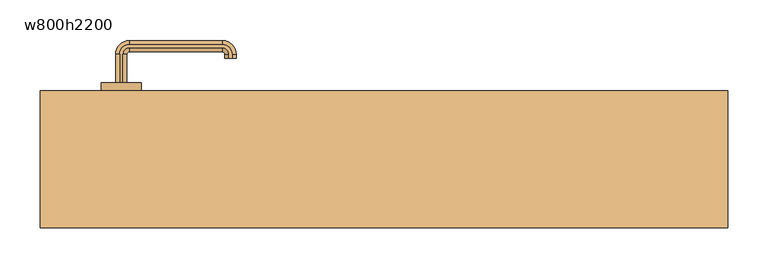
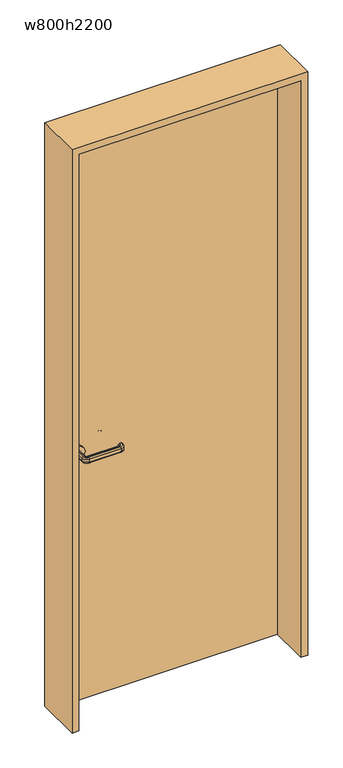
"""IFC4 building model written with IfcOpenShell, lengths in millimetres: door geometry, 片開き : w800h2200."""

from ifc_helpers import new_model, si_unit, point, frame, frame_2d, origin, origin_with_axes, place, context, project, spatial, polyline, circle_curve, ellipse_curve, trimmed, segment, composite_curve, outline, extrude, source, transform, mapped, element, save
from ifc_brep_helpers import plane_surface, cylinder_surface, revolved_surface, advanced_brep


def w800h2200_b60957cc(model_context):
    return source(origin(), model_context, "Body", "SolidModel", [
        advanced_brep(
        [(-327.0, 95.0, 960.0), (-332.0, 95.0, 955.0), (-332.0, 95.0, 945.0477623), (-327.0, 95.0, 940.0477623), (-323.0, 95.0, 940.0477623), (-318.0, 95.0, 945.0477623), (-318.0, 95.0, 955.0), (-323.0, 95.0, 960.0), (-327.0, 130.0, 960.0), (-332.0, 130.0, 955.0), (-332.0, 130.0, 945.0477623), (-327.0, 130.0, 940.0477623), (-315.0, 142.0, 940.0477623), (-200.0, 142.0, 940.0477623), (-188.0, 130.0, 940.0477623), (-188.0, 125.0, 940.0477623), (-192.0, 125.0, 940.0477623), (-192.0, 130.0, 940.0477623), (-200.0, 138.0, 940.0477623), (-315.0, 138.0, 940.0477623), (-323.0, 130.0, 940.0477623), (-318.0, 130.0, 945.0477623), (-318.0, 130.0, 955.0), (-323.0, 130.0, 960.0), (-315.0, 138.0, 960.0), (-200.0, 138.0, 960.0), (-192.0, 130.0, 960.0), (-192.0, 125.0, 960.0), (-188.0, 125.0, 960.0), (-188.0, 130.0, 960.0), (-200.0, 142.0, 960.0), (-315.0, 142.0, 960.0), (-315.0, 147.0, 955.0), (-315.0, 147.0, 945.0477623), (-315.0, 133.0, 945.0477623), (-315.0, 133.0, 955.0), (-200.0, 147.0, 955.0), (-200.0, 147.0, 945.0477623), (-200.0, 133.0, 945.0477623), (-200.0, 133.0, 955.0), (-183.0, 130.0, 955.0), (-183.0, 130.0, 945.0477623), (-197.0, 130.0, 945.0477623), (-197.0, 130.0, 955.0), (-197.0, 125.0, 955.0), (-197.0, 125.0, 945.0477623), (-183.0, 125.0, 945.0477623), (-183.0, 125.0, 955.0)],
        [
            (0, 1, circle_curve(frame((-327.0, 95.0, 955.0), z_axis=(0.0, -1.0, 0.0), x_axis=(-1.0, 0.0, 0.0)), 5.0)),
            (1, 2),
            (2, 3, circle_curve(frame((-327.0, 95.0, 945.0477623), z_axis=(0.0, -1.0, 0.0), x_axis=(-1.0, 0.0, 0.0)), 5.0)),
            (3, 4),
            (4, 5, circle_curve(frame((-323.0, 95.0, 945.0477623), z_axis=(0.0, -1.0, 0.0), x_axis=(-1.0, 0.0, 0.0)), 5.0)),
            (5, 6),
            (6, 7, circle_curve(frame((-323.0, 95.0, 955.0), z_axis=(0.0, -1.0, 0.0), x_axis=(-1.0, 0.0, 0.0)), 5.0)),
            (7, 0),
            (0, 8),
            (8, 9, circle_curve(frame((-327.0, 130.0, 955.0), z_axis=(0.0, -1.0, 0.0), x_axis=(-1.0, 0.0, 0.0)), 5.0)),
            (9, 1),
            (9, 10),
            (10, 2),
            (10, 11, circle_curve(frame((-327.0, 130.0, 945.0477623), z_axis=(0.0, -1.0, 0.0), x_axis=(-1.0, 0.0, 0.0)), 5.0)),
            (11, 3),
            (11, 12, circle_curve(frame((-315.0, 130.0, 940.0477623), z_axis=(0.0, 0.0, -1.0), x_axis=(-1.0, 0.0, 0.0)), 12.0)),
            (12, 13),
            (13, 14, circle_curve(frame((-200.0, 130.0, 940.0477623), z_axis=(0.0, 0.0, -1.0), x_axis=(0.0, 1.0, 0.0)), 12.0)),
            (14, 15),
            (15, 16),
            (16, 17),
            (17, 18, circle_curve(frame((-200.0, 130.0, 940.0477623), z_axis=(0.0, 0.0, 1.0), x_axis=(0.0, 1.0, 0.0)), 8.0)),
            (18, 19),
            (19, 20, circle_curve(frame((-315.0, 130.0, 940.0477623), z_axis=(0.0, 0.0, 1.0), x_axis=(-1.0, 0.0, 0.0)), 8.0)),
            (20, 4),
            (20, 21, circle_curve(frame((-323.0, 130.0, 945.0477623), z_axis=(0.0, -1.0, 0.0), x_axis=(-1.0, 0.0, 0.0)), 5.0)),
            (21, 5),
            (21, 22),
            (22, 6),
            (22, 23, circle_curve(frame((-323.0, 130.0, 955.0), z_axis=(0.0, -1.0, 0.0), x_axis=(-1.0, 0.0, 0.0)), 5.0)),
            (23, 7),
            (23, 24, circle_curve(frame((-315.0, 130.0, 960.0), z_axis=(0.0, 0.0, -1.0), x_axis=(-1.0, 0.0, 0.0)), 8.0)),
            (24, 25),
            (25, 26, circle_curve(frame((-200.0, 130.0, 960.0), z_axis=(0.0, 0.0, -1.0), x_axis=(0.0, 1.0, 0.0)), 8.0)),
            (26, 27),
            (27, 28),
            (28, 29),
            (29, 30, circle_curve(frame((-200.0, 130.0, 960.0), z_axis=(0.0, 0.0, 1.0), x_axis=(0.0, 1.0, 0.0)), 12.0)),
            (30, 31),
            (31, 8, circle_curve(frame((-315.0, 130.0, 960.0), z_axis=(0.0, 0.0, 1.0), x_axis=(-1.0, 0.0, 0.0)), 12.0)),
            (32, 9, circle_curve(frame((-315.0, 130.0, 955.0), z_axis=(0.0, 0.0, 1.0), x_axis=(-1.0, 0.0, 0.0)), 17.0)),
            (31, 32, circle_curve(frame((-315.0, 142.0, 955.0), z_axis=(-1.0, 0.0, 0.0), x_axis=(0.0, 1.0, 0.0)), 5.0)),
            (33, 10, circle_curve(frame((-315.0, 130.0, 945.0477623), z_axis=(0.0, 0.0, 1.0), x_axis=(-1.0, 0.0, 0.0)), 17.0)),
            (32, 33),
            (33, 12, circle_curve(frame((-315.0, 142.0, 945.0477623), z_axis=(-1.0, 0.0, 0.0), x_axis=(0.0, 1.0, 0.0)), 5.0)),
            (34, 21, circle_curve(frame((-315.0, 130.0, 945.0477623), z_axis=(0.0, 0.0, 1.0), x_axis=(-1.0, 0.0, 0.0)), 3.0)),
            (19, 34, circle_curve(frame((-315.0, 138.0, 945.0477623), z_axis=(-1.0, 0.0, 0.0), x_axis=(0.0, 1.0, 0.0)), 5.0)),
            (35, 22, circle_curve(frame((-315.0, 130.0, 955.0), z_axis=(0.0, 0.0, 1.0), x_axis=(-1.0, 0.0, 0.0)), 3.0)),
            (34, 35),
            (35, 24, circle_curve(frame((-315.0, 138.0, 955.0), z_axis=(-1.0, 0.0, 0.0), x_axis=(0.0, 1.0, 0.0)), 5.0)),
            (30, 36, circle_curve(frame((-200.0, 142.0, 955.0), z_axis=(-1.0, 0.0, 0.0), x_axis=(0.0, 1.0, 0.0)), 5.0)),
            (36, 32),
            (36, 37),
            (37, 33),
            (37, 13, circle_curve(frame((-200.0, 142.0, 945.0477623), z_axis=(-1.0, 0.0, 0.0), x_axis=(0.0, 1.0, 0.0)), 5.0)),
            (18, 38, circle_curve(frame((-200.0, 138.0, 945.0477623), z_axis=(-1.0, 0.0, 0.0), x_axis=(0.0, 1.0, 0.0)), 5.0)),
            (38, 34),
            (38, 39),
            (39, 35),
            (39, 25, circle_curve(frame((-200.0, 138.0, 955.0), z_axis=(-1.0, 0.0, 0.0), x_axis=(0.0, 1.0, 0.0)), 5.0)),
            (40, 36, circle_curve(frame((-200.0, 130.0, 955.0), z_axis=(0.0, 0.0, 1.0), x_axis=(0.0, 1.0, 0.0)), 17.0)),
            (29, 40, circle_curve(frame((-188.0, 130.0, 955.0), z_axis=(0.0, 1.0, 0.0), x_axis=(1.0, 0.0, 0.0)), 5.0)),
            (41, 37, circle_curve(frame((-200.0, 130.0, 945.0477623), z_axis=(0.0, 0.0, 1.0), x_axis=(0.0, 1.0, 0.0)), 17.0)),
            (40, 41),
            (41, 14, circle_curve(frame((-188.0, 130.0, 945.0477623), z_axis=(0.0, 1.0, 0.0), x_axis=(1.0, 0.0, 0.0)), 5.0)),
            (42, 38, circle_curve(frame((-200.0, 130.0, 945.0477623), z_axis=(0.0, 0.0, 1.0), x_axis=(0.0, 1.0, 0.0)), 3.0)),
            (17, 42, circle_curve(frame((-192.0, 130.0, 945.0477623), z_axis=(0.0, 1.0, 0.0), x_axis=(1.0, 0.0, 0.0)), 5.0)),
            (43, 39, circle_curve(frame((-200.0, 130.0, 955.0), z_axis=(0.0, 0.0, 1.0), x_axis=(0.0, 1.0, 0.0)), 3.0)),
            (42, 43),
            (43, 26, circle_curve(frame((-192.0, 130.0, 955.0), z_axis=(0.0, 1.0, 0.0), x_axis=(1.0, 0.0, 0.0)), 5.0)),
            (27, 44, circle_curve(frame((-192.0, 125.0, 955.0), z_axis=(0.0, -1.0, 0.0), x_axis=(1.0, 0.0, 0.0)), 5.0)),
            (44, 45),
            (45, 16, circle_curve(frame((-192.0, 125.0, 945.0477623), z_axis=(0.0, -1.0, 0.0), x_axis=(1.0, 0.0, 0.0)), 5.0)),
            (15, 46, circle_curve(frame((-188.0, 125.0, 945.0477623), z_axis=(0.0, -1.0, 0.0), x_axis=(1.0, 0.0, 0.0)), 5.0)),
            (46, 47),
            (47, 28, circle_curve(frame((-188.0, 125.0, 955.0), z_axis=(0.0, -1.0, 0.0), x_axis=(1.0, 0.0, 0.0)), 5.0)),
            (47, 40),
            (46, 41),
            (45, 42),
            (44, 43),
        ],
        [
            plane_surface(frame((-335.198039, 95.0, 950.0), z_axis=(0.0, -1.0, 0.0), x_axis=(0.0, 0.0, 1.0))),
            cylinder_surface(frame((-327.0, 95.0, 955.0), z_axis=(0.0, -1.0, 0.0), x_axis=(-1.0, 0.0, 0.0)), 5.0),
            plane_surface(frame((-332.0, 95.0, 955.0), z_axis=(-1.0, 0.0, 0.0), x_axis=(0.0, 1.0, 0.0))),
            cylinder_surface(frame((-327.0, 95.0, 945.0477623), z_axis=(0.0, -1.0, 0.0), x_axis=(-1.0, 0.0, 0.0)), 5.0),
            plane_surface(frame((-327.0, 95.0, 940.0477623), z_axis=(0.0, 0.0, -1.0), x_axis=(0.0, 1.0, 0.0))),
            cylinder_surface(frame((-323.0, 95.0, 945.0477623), z_axis=(0.0, -1.0, 0.0), x_axis=(-1.0, 0.0, 0.0)), 5.0),
            plane_surface(frame((-318.0, 95.0, 945.0477623), z_axis=(1.0, 0.0, 0.0), x_axis=(0.0, 1.0, 0.0))),
            cylinder_surface(frame((-323.0, 95.0, 955.0), z_axis=(0.0, -1.0, 0.0), x_axis=(-1.0, 0.0, 0.0)), 5.0),
            plane_surface(frame((-323.0, 95.0, 960.0), z_axis=(0.0, 0.0, 1.0), x_axis=(0.0, 1.0, 0.0))),
            revolved_surface(trimmed(ellipse_curve(frame((-327.0, 130.0, 955.0), z_axis=(0.0, -1.0, 0.0), x_axis=(-1.0, 0.0, 0.0)), 5.0, 5.0), [point((-327.0, 130.0, 960.0))], [point((-332.0, 130.0, 955.0))], True, "CARTESIAN"), (-315.0, 130.0, 950.0), (0.0, 0.0, -1.0)),
            cylinder_surface(frame((-315.0, 130.0, 950.0), z_axis=(0.0, 0.0, -1.0), x_axis=(-1.0, 0.0, 0.0)), 17.0),
            revolved_surface(trimmed(ellipse_curve(frame((-327.0, 130.0, 945.0477623), z_axis=(0.0, -1.0, 0.0), x_axis=(-1.0, 0.0, 0.0)), 5.0, 5.0), [point((-332.0, 130.0, 945.0477623))], [point((-327.0, 130.0, 940.0477623))], True, "CARTESIAN"), (-315.0, 130.0, 950.0), (0.0, 0.0, -1.0)),
            revolved_surface(trimmed(ellipse_curve(frame((-323.0, 130.0, 945.0477623), z_axis=(0.0, -1.0, 0.0), x_axis=(-1.0, 0.0, 0.0)), 5.0, 5.0), [point((-323.0, 130.0, 940.0477623))], [point((-318.0, 130.0, 945.0477623))], True, "CARTESIAN"), (-315.0, 130.0, 950.0), (0.0, 0.0, -1.0)),
            revolved_surface(polyline([(-318.0, 130.0, 945.0477623), (-318.0, 130.0, 955.0)]), (-315.0, 130.0, 950.0), (0.0, 0.0, -1.0)),
            revolved_surface(trimmed(ellipse_curve(frame((-323.0, 130.0, 955.0), z_axis=(0.0, -1.0, 0.0), x_axis=(-1.0, 0.0, 0.0)), 5.0, 5.0), [point((-318.0, 130.0, 955.0))], [point((-323.0, 130.0, 960.0))], True, "CARTESIAN"), (-315.0, 130.0, 950.0), (0.0, 0.0, -1.0)),
            cylinder_surface(frame((-315.0, 142.0, 955.0), z_axis=(-1.0, 0.0, 0.0), x_axis=(0.0, 1.0, 0.0)), 5.0),
            plane_surface(frame((-315.0, 147.0, 955.0), z_axis=(0.0, 1.0, 0.0), x_axis=(1.0, 0.0, 0.0))),
            cylinder_surface(frame((-315.0, 142.0, 945.0477623), z_axis=(-1.0, 0.0, 0.0), x_axis=(0.0, 1.0, 0.0)), 5.0),
            cylinder_surface(frame((-315.0, 138.0, 945.0477623), z_axis=(-1.0, 0.0, 0.0), x_axis=(0.0, 1.0, 0.0)), 5.0),
            plane_surface(frame((-315.0, 133.0, 945.0477623), z_axis=(0.0, -1.0, 0.0), x_axis=(1.0, 0.0, 0.0))),
            cylinder_surface(frame((-315.0, 138.0, 955.0), z_axis=(-1.0, 0.0, 0.0), x_axis=(0.0, 1.0, 0.0)), 5.0),
            revolved_surface(trimmed(ellipse_curve(frame((-200.0, 142.0, 955.0), z_axis=(-1.0, 0.0, 0.0), x_axis=(0.0, 1.0, 0.0)), 5.0, 5.0), [point((-200.0, 142.0, 960.0))], [point((-200.0, 147.0, 955.0))], True, "CARTESIAN"), (-200.0, 130.0, 950.0), (0.0, 0.0, -1.0)),
            cylinder_surface(frame((-200.0, 130.0, 950.0), z_axis=(0.0, 0.0, -1.0), x_axis=(0.0, 1.0, 0.0)), 17.0),
            revolved_surface(trimmed(ellipse_curve(frame((-200.0, 142.0, 945.0477623), z_axis=(-1.0, 0.0, 0.0), x_axis=(0.0, 1.0, 0.0)), 5.0, 5.0), [point((-200.0, 147.0, 945.0477623))], [point((-200.0, 142.0, 940.0477623))], True, "CARTESIAN"), (-200.0, 130.0, 950.0), (0.0, 0.0, -1.0)),
            revolved_surface(trimmed(ellipse_curve(frame((-200.0, 138.0, 945.0477623), z_axis=(-1.0, 0.0, 0.0), x_axis=(0.0, 1.0, 0.0)), 5.0, 5.0), [point((-200.0, 138.0, 940.0477623))], [point((-200.0, 133.0, 945.0477623))], True, "CARTESIAN"), (-200.0, 130.0, 950.0), (0.0, 0.0, -1.0)),
            revolved_surface(polyline([(-200.0, 133.0, 945.0477623), (-200.0, 133.0, 955.0)]), (-200.0, 130.0, 950.0), (0.0, 0.0, -1.0)),
            revolved_surface(trimmed(ellipse_curve(frame((-200.0, 138.0, 955.0), z_axis=(-1.0, 0.0, 0.0), x_axis=(0.0, 1.0, 0.0)), 5.0, 5.0), [point((-200.0, 133.0, 955.0))], [point((-200.0, 138.0, 960.0))], True, "CARTESIAN"), (-200.0, 130.0, 950.0), (0.0, 0.0, -1.0)),
            plane_surface(frame((-200.198039, 125.0, 950.0), z_axis=(0.0, -1.0, 0.0), x_axis=(0.0, 0.0, -1.0))),
            cylinder_surface(frame((-188.0, 130.0, 955.0), z_axis=(0.0, 1.0, 0.0), x_axis=(1.0, 0.0, 0.0)), 5.0),
            plane_surface(frame((-183.0, 130.0, 955.0), z_axis=(1.0, 0.0, 0.0), x_axis=(0.0, -1.0, 0.0))),
            cylinder_surface(frame((-188.0, 130.0, 945.0477623), z_axis=(0.0, 1.0, 0.0), x_axis=(1.0, 0.0, 0.0)), 5.0),
            cylinder_surface(frame((-192.0, 130.0, 945.0477623), z_axis=(0.0, 1.0, 0.0), x_axis=(1.0, 0.0, 0.0)), 5.0),
            plane_surface(frame((-197.0, 130.0, 945.0477623), z_axis=(-1.0, 0.0, 0.0), x_axis=(0.0, -1.0, 0.0))),
            cylinder_surface(frame((-192.0, 130.0, 955.0), z_axis=(0.0, 1.0, 0.0), x_axis=(1.0, 0.0, 0.0)), 5.0),
        ],
        [
            (0, [[1, 2, 3, 4, 5, 6, 7, 8]]),
            (1, [[-1, 9, 10, 11]]),
            (2, [[-2, -11, 12, 13]]),
            (3, [[-3, -13, 14, 15]]),
            (4, [[-4, -15, 16, 17, 18, 19, 20, 21, 22, 23, 24, 25]]),
            (5, [[-5, -25, 26, 27]]),
            (6, [[-6, -27, 28, 29]]),
            (7, [[-7, -29, 30, 31]]),
            (8, [[-8, -31, 32, 33, 34, 35, 36, 37, 38, 39, 40, -9]]),
            (9, [[41, -10, -40, 42]]),
            (10, [[43, -12, -41, 44]]),
            (11, [[-16, -14, -43, 45]]),
            (12, [[46, -26, -24, 47]]),
            (13, [[48, -28, -46, 49]]),
            (14, [[-32, -30, -48, 50]]),
            (15, [[-42, -39, 51, 52]]),
            (16, [[-44, -52, 53, 54]]),
            (17, [[-45, -54, 55, -17]]),
            (18, [[-47, -23, 56, 57]]),
            (19, [[-49, -57, 58, 59]]),
            (20, [[-50, -59, 60, -33]]),
            (21, [[61, -51, -38, 62]]),
            (22, [[63, -53, -61, 64]]),
            (23, [[-18, -55, -63, 65]]),
            (24, [[66, -56, -22, 67]]),
            (25, [[68, -58, -66, 69]]),
            (26, [[-34, -60, -68, 70]]),
            (27, [[-36, 71, 72, 73, -20, 74, 75, 76]]),
            (28, [[-62, -37, -76, 77]]),
            (29, [[-64, -77, -75, 78]]),
            (30, [[-65, -78, -74, -19]]),
            (31, [[-67, -21, -73, 79]]),
            (32, [[-69, -79, -72, 80]]),
            (33, [[-70, -80, -71, -35]]),
        ],
    ),
        advanced_brep(
        [(-323.0, 50.0, 940.0), (-327.0, 50.0, 940.0), (-332.0, 50.0, 945.0), (-332.0, 50.0, 955.0), (-327.0, 50.0, 960.0), (-323.0, 50.0, 960.0), (-318.0, 50.0, 955.0), (-318.0, 50.0, 945.0), (-323.0, 15.0, 940.0), (-315.0, 7.0, 940.0), (-200.0, 7.0, 940.0), (-192.0, 15.0, 940.0), (-192.0, 20.0, 940.0), (-188.0, 20.0, 940.0), (-188.0, 15.0, 940.0), (-200.0, 3.0, 940.0), (-315.0, 3.0, 940.0), (-327.0, 15.0, 940.0), (-332.0, 15.0, 945.0), (-332.0, 15.0, 955.0), (-327.0, 15.0, 960.0), (-315.0, 3.0, 960.0), (-200.0, 3.0, 960.0), (-188.0, 15.0, 960.0), (-188.0, 20.0, 960.0), (-192.0, 20.0, 960.0), (-192.0, 15.0, 960.0), (-200.0, 7.0, 960.0), (-315.0, 7.0, 960.0), (-323.0, 15.0, 960.0), (-318.0, 15.0, 955.0), (-318.0, 15.0, 945.0), (-315.0, -2.0, 945.0), (-315.0, -2.0, 955.0), (-315.0, 12.0, 955.0), (-315.0, 12.0, 945.0), (-200.0, -2.0, 945.0), (-200.0, -2.0, 955.0), (-200.0, 12.0, 955.0), (-200.0, 12.0, 945.0), (-183.0, 15.0, 945.0), (-183.0, 15.0, 955.0), (-197.0, 15.0, 955.0), (-197.0, 15.0, 945.0), (-197.0, 20.0, 945.0), (-197.0, 20.0, 955.0), (-183.0, 20.0, 955.0), (-183.0, 20.0, 945.0)],
        [
            (0, 1),
            (1, 2, circle_curve(frame((-327.0, 50.0, 945.0), z_axis=(0.0, 1.0, 0.0), x_axis=(1.0, 0.0, 0.0)), 5.0)),
            (2, 3),
            (3, 4, circle_curve(frame((-327.0, 50.0, 955.0), z_axis=(0.0, 1.0, 0.0), x_axis=(1.0, 0.0, 0.0)), 5.0)),
            (4, 5),
            (5, 6, circle_curve(frame((-323.0, 50.0, 955.0), z_axis=(0.0, 1.0, 0.0), x_axis=(1.0, 0.0, 0.0)), 5.0)),
            (6, 7),
            (7, 0, circle_curve(frame((-323.0, 50.0, 945.0), z_axis=(0.0, 1.0, 0.0), x_axis=(1.0, 0.0, 0.0)), 5.0)),
            (0, 8),
            (8, 9, circle_curve(frame((-315.0, 15.0, 940.0), z_axis=(0.0, 0.0, 1.0), x_axis=(-1.0, 0.0, 0.0)), 8.0)),
            (9, 10),
            (10, 11, circle_curve(frame((-200.0, 15.0, 940.0), z_axis=(0.0, 0.0, 1.0), x_axis=(0.0, -1.0, 0.0)), 8.0)),
            (11, 12),
            (12, 13),
            (13, 14),
            (14, 15, circle_curve(frame((-200.0, 15.0, 940.0), z_axis=(0.0, 0.0, -1.0), x_axis=(0.0, -1.0, 0.0)), 12.0)),
            (15, 16),
            (16, 17, circle_curve(frame((-315.0, 15.0, 940.0), z_axis=(0.0, 0.0, -1.0), x_axis=(-1.0, 0.0, 0.0)), 12.0)),
            (17, 1),
            (17, 18, circle_curve(frame((-327.0, 15.0, 945.0), z_axis=(0.0, 1.0, 0.0), x_axis=(1.0, 0.0, 0.0)), 5.0)),
            (18, 2),
            (18, 19),
            (19, 3),
            (19, 20, circle_curve(frame((-327.0, 15.0, 955.0), z_axis=(0.0, 1.0, 0.0), x_axis=(1.0, 0.0, 0.0)), 5.0)),
            (20, 4),
            (20, 21, circle_curve(frame((-315.0, 15.0, 960.0), z_axis=(0.0, 0.0, 1.0), x_axis=(-1.0, 0.0, 0.0)), 12.0)),
            (21, 22),
            (22, 23, circle_curve(frame((-200.0, 15.0, 960.0), z_axis=(0.0, 0.0, 1.0), x_axis=(0.0, -1.0, 0.0)), 12.0)),
            (23, 24),
            (24, 25),
            (25, 26),
            (26, 27, circle_curve(frame((-200.0, 15.0, 960.0), z_axis=(0.0, 0.0, -1.0), x_axis=(0.0, -1.0, 0.0)), 8.0)),
            (27, 28),
            (28, 29, circle_curve(frame((-315.0, 15.0, 960.0), z_axis=(0.0, 0.0, -1.0), x_axis=(-1.0, 0.0, 0.0)), 8.0)),
            (29, 5),
            (29, 30, circle_curve(frame((-323.0, 15.0, 955.0), z_axis=(0.0, 1.0, 0.0), x_axis=(1.0, 0.0, 0.0)), 5.0)),
            (30, 6),
            (30, 31),
            (31, 7),
            (31, 8, circle_curve(frame((-323.0, 15.0, 945.0), z_axis=(0.0, 1.0, 0.0), x_axis=(1.0, 0.0, 0.0)), 5.0)),
            (32, 18, circle_curve(frame((-315.0, 15.0, 945.0), z_axis=(0.0, 0.0, -1.0), x_axis=(-1.0, 0.0, 0.0)), 17.0)),
            (16, 32, circle_curve(frame((-315.0, 3.0, 945.0), z_axis=(-1.0, 0.0, 0.0), x_axis=(0.0, 1.0, 0.0)), 5.0)),
            (33, 19, circle_curve(frame((-315.0, 15.0, 955.0), z_axis=(0.0, 0.0, -1.0), x_axis=(-1.0, 0.0, 0.0)), 17.0)),
            (32, 33),
            (33, 21, circle_curve(frame((-315.0, 3.0, 955.0), z_axis=(-1.0, 0.0, 0.0), x_axis=(0.0, 1.0, 0.0)), 5.0)),
            (34, 30, circle_curve(frame((-315.0, 15.0, 955.0), z_axis=(0.0, 0.0, -1.0), x_axis=(-1.0, 0.0, 0.0)), 3.0)),
            (28, 34, circle_curve(frame((-315.0, 7.0, 955.0), z_axis=(-1.0, 0.0, 0.0), x_axis=(0.0, 1.0, 0.0)), 5.0)),
            (35, 31, circle_curve(frame((-315.0, 15.0, 945.0), z_axis=(0.0, 0.0, -1.0), x_axis=(-1.0, 0.0, 0.0)), 3.0)),
            (34, 35),
            (35, 9, circle_curve(frame((-315.0, 7.0, 945.0), z_axis=(-1.0, 0.0, 0.0), x_axis=(0.0, 1.0, 0.0)), 5.0)),
            (15, 36, circle_curve(frame((-200.0, 3.0, 945.0), z_axis=(-1.0, 0.0, 0.0), x_axis=(0.0, 1.0, 0.0)), 5.0)),
            (36, 32),
            (36, 37),
            (37, 33),
            (37, 22, circle_curve(frame((-200.0, 3.0, 955.0), z_axis=(-1.0, 0.0, 0.0), x_axis=(0.0, 1.0, 0.0)), 5.0)),
            (27, 38, circle_curve(frame((-200.0, 7.0, 955.0), z_axis=(-1.0, 0.0, 0.0), x_axis=(0.0, 1.0, 0.0)), 5.0)),
            (38, 34),
            (38, 39),
            (39, 35),
            (39, 10, circle_curve(frame((-200.0, 7.0, 945.0), z_axis=(-1.0, 0.0, 0.0), x_axis=(0.0, 1.0, 0.0)), 5.0)),
            (40, 36, circle_curve(frame((-200.0, 15.0, 945.0), z_axis=(0.0, 0.0, -1.0), x_axis=(0.0, -1.0, 0.0)), 17.0)),
            (14, 40, circle_curve(frame((-188.0, 15.0, 945.0), z_axis=(0.0, -1.0, 0.0), x_axis=(-1.0, 0.0, 0.0)), 5.0)),
            (41, 37, circle_curve(frame((-200.0, 15.0, 955.0), z_axis=(0.0, 0.0, -1.0), x_axis=(0.0, -1.0, 0.0)), 17.0)),
            (40, 41),
            (41, 23, circle_curve(frame((-188.0, 15.0, 955.0), z_axis=(0.0, -1.0, 0.0), x_axis=(-1.0, 0.0, 0.0)), 5.0)),
            (42, 38, circle_curve(frame((-200.0, 15.0, 955.0), z_axis=(0.0, 0.0, -1.0), x_axis=(0.0, -1.0, 0.0)), 3.0)),
            (26, 42, circle_curve(frame((-192.0, 15.0, 955.0), z_axis=(0.0, -1.0, 0.0), x_axis=(-1.0, 0.0, 0.0)), 5.0)),
            (43, 39, circle_curve(frame((-200.0, 15.0, 945.0), z_axis=(0.0, 0.0, -1.0), x_axis=(0.0, -1.0, 0.0)), 3.0)),
            (42, 43),
            (43, 11, circle_curve(frame((-192.0, 15.0, 945.0), z_axis=(0.0, -1.0, 0.0), x_axis=(-1.0, 0.0, 0.0)), 5.0)),
            (12, 44, circle_curve(frame((-192.0, 20.0, 945.0), z_axis=(0.0, 1.0, 0.0), x_axis=(-1.0, 0.0, 0.0)), 5.0)),
            (44, 45),
            (45, 25, circle_curve(frame((-192.0, 20.0, 955.0), z_axis=(0.0, 1.0, 0.0), x_axis=(-1.0, 0.0, 0.0)), 5.0)),
            (24, 46, circle_curve(frame((-188.0, 20.0, 955.0), z_axis=(0.0, 1.0, 0.0), x_axis=(-1.0, 0.0, 0.0)), 5.0)),
            (46, 47),
            (47, 13, circle_curve(frame((-188.0, 20.0, 945.0), z_axis=(0.0, 1.0, 0.0), x_axis=(-1.0, 0.0, 0.0)), 5.0)),
            (47, 40),
            (46, 41),
            (45, 42),
            (44, 43),
        ],
        [
            plane_surface(frame((-335.198039, 50.0, 950.0), z_axis=(0.0, 1.0, 0.0), x_axis=(0.0, 0.0, -1.0))),
            plane_surface(frame((-323.0, 50.0, 940.0), z_axis=(0.0, 0.0, -1.0), x_axis=(0.0, -1.0, 0.0))),
            cylinder_surface(frame((-327.0, 50.0, 945.0), z_axis=(0.0, 1.0, 0.0), x_axis=(1.0, 0.0, 0.0)), 5.0),
            plane_surface(frame((-332.0, 50.0, 945.0), z_axis=(-1.0, 0.0, 0.0), x_axis=(0.0, -1.0, 0.0))),
            cylinder_surface(frame((-327.0, 50.0, 955.0), z_axis=(0.0, 1.0, 0.0), x_axis=(1.0, 0.0, 0.0)), 5.0),
            plane_surface(frame((-327.0, 50.0, 960.0), z_axis=(0.0, 0.0, 1.0), x_axis=(0.0, -1.0, 0.0))),
            cylinder_surface(frame((-323.0, 50.0, 955.0), z_axis=(0.0, 1.0, 0.0), x_axis=(1.0, 0.0, 0.0)), 5.0),
            plane_surface(frame((-318.0, 50.0, 955.0), z_axis=(1.0, 0.0, 0.0), x_axis=(0.0, -1.0, 0.0))),
            cylinder_surface(frame((-323.0, 50.0, 945.0), z_axis=(0.0, 1.0, 0.0), x_axis=(1.0, 0.0, 0.0)), 5.0),
            revolved_surface(trimmed(ellipse_curve(frame((-327.0, 15.0, 945.0), z_axis=(0.0, 1.0, 0.0), x_axis=(1.0, 0.0, 0.0)), 5.0, 5.0), [point((-327.0, 15.0, 940.0))], [point((-332.0, 15.0, 945.0))], True, "CARTESIAN"), (-315.0, 15.0, 950.0), (0.0, 0.0, 1.0)),
            cylinder_surface(frame((-315.0, 15.0, 950.0), z_axis=(0.0, 0.0, 1.0), x_axis=(-1.0, 0.0, 0.0)), 17.0),
            revolved_surface(trimmed(ellipse_curve(frame((-327.0, 15.0, 955.0), z_axis=(0.0, 1.0, 0.0), x_axis=(1.0, 0.0, 0.0)), 5.0, 5.0), [point((-332.0, 15.0, 955.0))], [point((-327.0, 15.0, 960.0))], True, "CARTESIAN"), (-315.0, 15.0, 950.0), (0.0, 0.0, 1.0)),
            revolved_surface(trimmed(ellipse_curve(frame((-323.0, 15.0, 955.0), z_axis=(0.0, 1.0, 0.0), x_axis=(1.0, 0.0, 0.0)), 5.0, 5.0), [point((-323.0, 15.0, 960.0))], [point((-318.0, 15.0, 955.0))], True, "CARTESIAN"), (-315.0, 15.0, 950.0), (0.0, 0.0, 1.0)),
            revolved_surface(polyline([(-318.0, 15.0, 955.0), (-318.0, 15.0, 945.0)]), (-315.0, 15.0, 950.0), (0.0, 0.0, 1.0)),
            revolved_surface(trimmed(ellipse_curve(frame((-323.0, 15.0, 945.0), z_axis=(0.0, 1.0, 0.0), x_axis=(1.0, 0.0, 0.0)), 5.0, 5.0), [point((-318.0, 15.0, 945.0))], [point((-323.0, 15.0, 940.0))], True, "CARTESIAN"), (-315.0, 15.0, 950.0), (0.0, 0.0, 1.0)),
            cylinder_surface(frame((-315.0, 3.0, 945.0), z_axis=(-1.0, 0.0, 0.0), x_axis=(0.0, 1.0, 0.0)), 5.0),
            plane_surface(frame((-315.0, -2.0, 945.0), z_axis=(0.0, -1.0, 0.0), x_axis=(1.0, 0.0, 0.0))),
            cylinder_surface(frame((-315.0, 3.0, 955.0), z_axis=(-1.0, 0.0, 0.0), x_axis=(0.0, 1.0, 0.0)), 5.0),
            cylinder_surface(frame((-315.0, 7.0, 955.0), z_axis=(-1.0, 0.0, 0.0), x_axis=(0.0, 1.0, 0.0)), 5.0),
            plane_surface(frame((-315.0, 12.0, 955.0), z_axis=(0.0, 1.0, 0.0), x_axis=(1.0, 0.0, 0.0))),
            cylinder_surface(frame((-315.0, 7.0, 945.0), z_axis=(-1.0, 0.0, 0.0), x_axis=(0.0, 1.0, 0.0)), 5.0),
            revolved_surface(trimmed(ellipse_curve(frame((-200.0, 3.0, 945.0), z_axis=(-1.0, 0.0, 0.0), x_axis=(0.0, 1.0, 0.0)), 5.0, 5.0), [point((-200.0, 3.0, 940.0))], [point((-200.0, -2.0, 945.0))], True, "CARTESIAN"), (-200.0, 15.0, 950.0), (0.0, 0.0, 1.0)),
            cylinder_surface(frame((-200.0, 15.0, 950.0), z_axis=(0.0, 0.0, 1.0), x_axis=(0.0, -1.0, 0.0)), 17.0),
            revolved_surface(trimmed(ellipse_curve(frame((-200.0, 3.0, 955.0), z_axis=(-1.0, 0.0, 0.0), x_axis=(0.0, 1.0, 0.0)), 5.0, 5.0), [point((-200.0, -2.0, 955.0))], [point((-200.0, 3.0, 960.0))], True, "CARTESIAN"), (-200.0, 15.0, 950.0), (0.0, 0.0, 1.0)),
            revolved_surface(trimmed(ellipse_curve(frame((-200.0, 7.0, 955.0), z_axis=(-1.0, 0.0, 0.0), x_axis=(0.0, 1.0, 0.0)), 5.0, 5.0), [point((-200.0, 7.0, 960.0))], [point((-200.0, 12.0, 955.0))], True, "CARTESIAN"), (-200.0, 15.0, 950.0), (0.0, 0.0, 1.0)),
            revolved_surface(polyline([(-200.0, 12.0, 955.0), (-200.0, 12.0, 945.0)]), (-200.0, 15.0, 950.0), (0.0, 0.0, 1.0)),
            revolved_surface(trimmed(ellipse_curve(frame((-200.0, 7.0, 945.0), z_axis=(-1.0, 0.0, 0.0), x_axis=(0.0, 1.0, 0.0)), 5.0, 5.0), [point((-200.0, 12.0, 945.0))], [point((-200.0, 7.0, 940.0))], True, "CARTESIAN"), (-200.0, 15.0, 950.0), (0.0, 0.0, 1.0)),
            plane_surface(frame((-200.198039, 20.0, 950.0), z_axis=(0.0, 1.0, 0.0), x_axis=(0.0, 0.0, 1.0))),
            cylinder_surface(frame((-188.0, 15.0, 945.0), z_axis=(0.0, -1.0, 0.0), x_axis=(-1.0, 0.0, 0.0)), 5.0),
            plane_surface(frame((-183.0, 15.0, 945.0), z_axis=(1.0, 0.0, 0.0), x_axis=(0.0, 1.0, 0.0))),
            cylinder_surface(frame((-188.0, 15.0, 955.0), z_axis=(0.0, -1.0, 0.0), x_axis=(-1.0, 0.0, 0.0)), 5.0),
            cylinder_surface(frame((-192.0, 15.0, 955.0), z_axis=(0.0, -1.0, 0.0), x_axis=(-1.0, 0.0, 0.0)), 5.0),
            plane_surface(frame((-197.0, 15.0, 955.0), z_axis=(-1.0, 0.0, 0.0), x_axis=(0.0, 1.0, 0.0))),
            cylinder_surface(frame((-192.0, 15.0, 945.0), z_axis=(0.0, -1.0, 0.0), x_axis=(-1.0, 0.0, 0.0)), 5.0),
        ],
        [
            (0, [[1, 2, 3, 4, 5, 6, 7, 8]]),
            (1, [[-1, 9, 10, 11, 12, 13, 14, 15, 16, 17, 18, 19]]),
            (2, [[-2, -19, 20, 21]]),
            (3, [[-3, -21, 22, 23]]),
            (4, [[-4, -23, 24, 25]]),
            (5, [[-5, -25, 26, 27, 28, 29, 30, 31, 32, 33, 34, 35]]),
            (6, [[-6, -35, 36, 37]]),
            (7, [[-7, -37, 38, 39]]),
            (8, [[-8, -39, 40, -9]]),
            (9, [[41, -20, -18, 42]]),
            (10, [[43, -22, -41, 44]]),
            (11, [[-26, -24, -43, 45]]),
            (12, [[46, -36, -34, 47]]),
            (13, [[48, -38, -46, 49]]),
            (14, [[-10, -40, -48, 50]]),
            (15, [[-42, -17, 51, 52]]),
            (16, [[-44, -52, 53, 54]]),
            (17, [[-45, -54, 55, -27]]),
            (18, [[-47, -33, 56, 57]]),
            (19, [[-49, -57, 58, 59]]),
            (20, [[-50, -59, 60, -11]]),
            (21, [[61, -51, -16, 62]]),
            (22, [[63, -53, -61, 64]]),
            (23, [[-28, -55, -63, 65]]),
            (24, [[66, -56, -32, 67]]),
            (25, [[68, -58, -66, 69]]),
            (26, [[-12, -60, -68, 70]]),
            (27, [[71, 72, 73, -30, 74, 75, 76, -14]]),
            (28, [[-62, -15, -76, 77]]),
            (29, [[-64, -77, -75, 78]]),
            (30, [[-65, -78, -74, -29]]),
            (31, [[-67, -31, -73, 79]]),
            (32, [[-69, -79, -72, 80]]),
            (33, [[-70, -80, -71, -13]]),
        ],
    ),
        extrude(outline(composite_curve([segment(trimmed(circle_curve(frame_2d((950.0, -325.0)), 25.0), [point((950.0, -350.0))], [point((950.0, -300.0))], False, "CARTESIAN"), True, "CONTINUOUS"), segment(trimmed(circle_curve(frame_2d((950.0, -325.0)), 25.0), [point((950.0, -300.0))], [point((950.0, -350.0))], False, "CARTESIAN"), True, "CONTINUOUS")], self_intersect=False)), frame((0.0, 85.0, 0.0), z_axis=(0.0, 1.0, 0.0), x_axis=(0.0, 0.0, 1.0)), (0.0, 0.0, 1.0), 10.0),
        extrude(outline(composite_curve([segment(trimmed(circle_curve(frame_2d((950.0, -325.0)), 25.0), [point((950.0, -350.0))], [point((950.0, -300.0))], False, "CARTESIAN"), True, "CONTINUOUS"), segment(trimmed(circle_curve(frame_2d((950.0, -325.0)), 25.0), [point((950.0, -300.0))], [point((950.0, -350.0))], False, "CARTESIAN"), True, "CONTINUOUS")], self_intersect=False)), frame((0.0, 50.0, 0.0), z_axis=(0.0, 1.0, 0.0), x_axis=(0.0, 0.0, 1.0)), (0.0, 0.0, 1.0), 10.0),
        extrude(outline(polyline([(400.0, 60.0), (-400.0, 60.0), (-400.0, 85.0), (400.0, 85.0), (400.0, 60.0)])), origin_with_axes(), (0.0, 0.0, 1.0), 2200.0),
        extrude(outline(polyline([(2225.0, -425.0), (0.0, -425.0), (0.0, -400.0), (2200.0, -400.0), (2200.0, 400.0), (0.0, 400.0), (0.0, 425.0), (2225.0, 425.0), (2225.0, -425.0)])), frame((0.0, -85.0, 0.0), z_axis=(0.0, 1.0, 0.0), x_axis=(0.0, 0.0, 1.0)), (0.0, 0.0, 1.0), 170.0),
    ])


if __name__ == "__main__":
    model = new_model("IFC4")
    model_context = context("Model", 3, world=origin())
    ifc_project = project(units=[si_unit("LENGTHUNIT", "METRE", prefix="MILLI")], contexts=[model_context])
    site = spatial("IfcSite", under=ifc_project)
    building = spatial("IfcBuilding", under=site)
    placement = place(None, origin())
    w800h2200_shape = w800h2200_b60957cc(model_context)
    element("IfcDoor", 1, ObjectType="片開き : w800h2200", at=placement, inside=building, context=model_context, shape_type="MappedRepresentation", body=[
        mapped(w800h2200_shape, transform((0.0, 0.0, 0.0), x_axis=(1.0, 0.0, 0.0), y_axis=(0.0, 1.0, 0.0), z_axis=(0.0, 0.0, 1.0))),
    ])
    save(model, "model.ifc")
